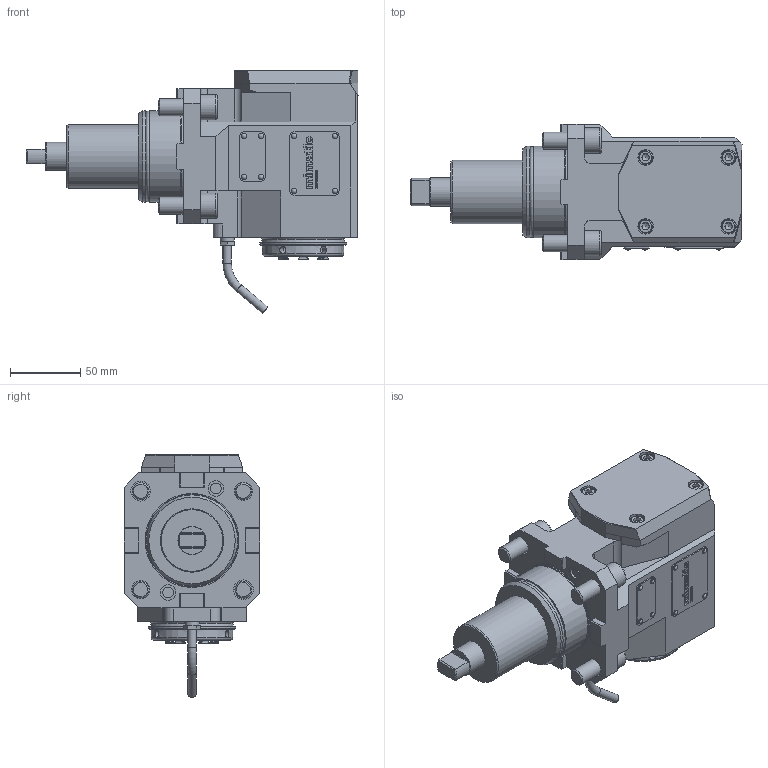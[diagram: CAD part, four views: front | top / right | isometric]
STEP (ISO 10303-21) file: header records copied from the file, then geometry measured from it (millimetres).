
FILE_DESCRIPTION(/* description */ (''),/* implementation_level */ '2;1');
FILE_NAME(/* name */ '196398',/* time_stamp */ '2020-12-02T09:02:48+01:00',/* author */ (''),/* organization */ (''),/* preprocessor_version */ 'ST-DEVELOPER v16.5',/* originating_system */ 'HiCAD 2017 2201.0 Build 268',/* authorisation */ '');
FILE_SCHEMA (('AUTOMOTIVE_DESIGN { 1 0 10303 214 1 1 1 1 }'));
Products named in the file (1): Teil
Bounding box: 236 x 96 x 172.51 mm (x, y, z)
Volume: 1238848.6 mm3; surface area: 120464.7 mm2
Topology: 2 solids, 17 shells, 897 faces, 2262 edges, 1480 vertices
Faces by surface type: plane 558, cylinder 219, cone 45, bspline 38, torus 29, sphere 8
Full cylindrical faces by diameter (mm): 2 x8, 2.2 x8, 4 x2, 4.2 x1, 5.1 x6, 6 x3, 6.1 x1, 6.6 x4, 7.65 x2, 8 x1, 8.92 x1, 10 x5, 11 x4, 11.01 x2, 11.1 x2, 12 x5, 13 x2, 14 x2, 18 x4, 20 x3, 23.5 x1, 27 x1, 29 x2, 40 x2, 40.501 x1, 45 x1, 55 x1, 55.8 x1, 58 x1, 60.8 x2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
Entity records: 54441 total; most frequent: CARTESIAN_POINT 10329, PRESENTATION_STYLE_ASSIGNMENT 4596, OVER_RIDING_STYLED_ITEM 4595, COLOUR_RGB 4099, DRAUGHTING_PRE_DEFINED_CURVE_FONT 4086, CURVE_STYLE 4086, ORIENTED_EDGE 4086, DIRECTION 4054
